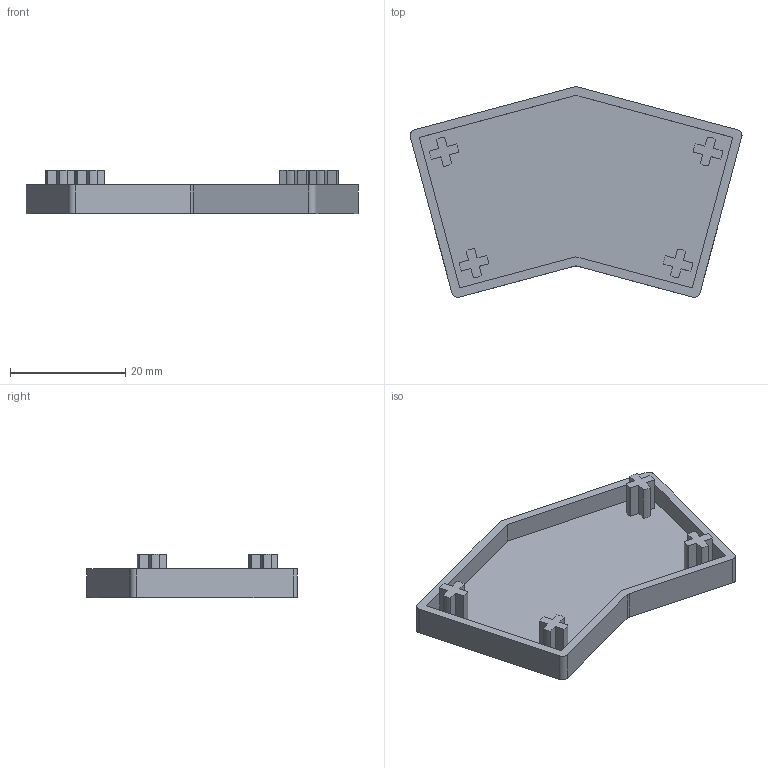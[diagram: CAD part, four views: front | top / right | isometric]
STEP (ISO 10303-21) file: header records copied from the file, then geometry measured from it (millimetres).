
FILE_DESCRIPTION (( 'STEP AP203' ), '1' );
FILE_NAME ('EC30150-6.STEP', '2024-02-17T07:17:44', ( '' ), ( '' ), 'SwSTEP 2.0', 'SolidWorks 2022', '' );
FILE_SCHEMA (( 'CONFIG_CONTROL_DESIGN' ));
Length unit declared in the file: millimetre
Products named in the file (1): EC30150-6
Bounding box: 57.5 x 36.47 x 7.5 mm (x, y, z)
Volume: 3462.9 mm3; surface area: 4917.8 mm2
Topology: 1 solids, 1 shells, 78 faces, 213 edges, 142 vertices
Faces by surface type: plane 51, cylinder 27
Entity records: 2548 total; most frequent: CARTESIAN_POINT 434, ORIENTED_EDGE 426, DIRECTION 425, EDGE_CURVE 213, VECTOR 159, LINE 159, VERTEX_POINT 142, AXIS2_PLACEMENT_3D 133
